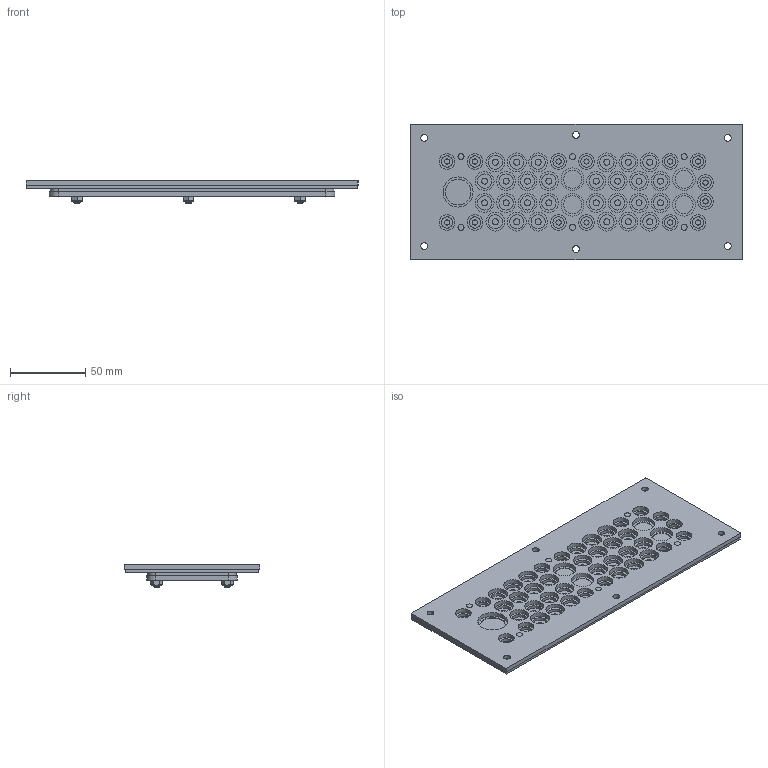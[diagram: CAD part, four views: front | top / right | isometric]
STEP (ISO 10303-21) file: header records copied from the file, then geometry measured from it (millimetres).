
FILE_DESCRIPTION(/* description */ ('Unknown'),/* implementation_level */ '2;1');
FILE_NAME(/* name */ 'KDP-S 90_47 Alu',/* time_stamp */ '2022-06-02T10:43:51+02:00',/* author */ ('Unknown'),/* organization */ ('Unknown'),/* preprocessor_version */ 'ST-DEVELOPER v16.7',/* originating_system */ 'Solid Edge',/* authorisation */ 'Unknown');
FILE_SCHEMA (('AUTOMOTIVE_DESIGN {1 0 10303 214 3 1 1}'));
Length unit declared in the file: millimetre
Products named in the file (8): KDP-S 90_47 Alu; KDP-M 90_47 Alu_FLP; Einpressgewindebolzen PEM FHL-M4-15 rfr; KDP-V 90_47 NBR; KDP-A 90_47 EPDM; 6kt- Mutter M4x 0.8d V4; KDP-M 90_47 Alu_ADP
Assembly tree (17 placements, depth 3):
  KDP-S 90_47 Alu
    KDP-M 90_47 Alu_FLP
      KDP-M 90_47 Alu_FLP
      Einpressgewindebolzen PEM FHL-M4-15 rfr  x6
    KDP-V 90_47 NBR
    KDP-A 90_47 EPDM
    6kt- Mutter M4x 0.8d V4  x6
    KDP-M 90_47 Alu_ADP
Bounding box: 221 x 90 x 15 mm (x, y, z)
Volume: 119068.9 mm3; surface area: 117540.8 mm2
Topology: 16 solids, 16 shells, 408 faces, 966 edges, 642 vertices
Faces by surface type: cylinder 254, plane 136, torus 12, cone 6
Full cylindrical faces by diameter (mm): 3.242 x6, 3.5 x14, 4 x46, 4.5 x6, 4.8 x6, 5 x18, 5.5 x4, 6.5 x1, 7.5 x14, 9.5 x28, 10.5 x28, 12 x4, 12.5 x56, 15 x8, 17 x1, 20 x2
Entity records: 9814 total; most frequent: DIRECTION 1718, CARTESIAN_POINT 1572, ORIENTED_EDGE 1116, EDGE_LOOP 956, FACE_BOUND 956, AXIS2_PLACEMENT_3D 826, EDGE_CURVE 558, VERTEX_POINT 524
